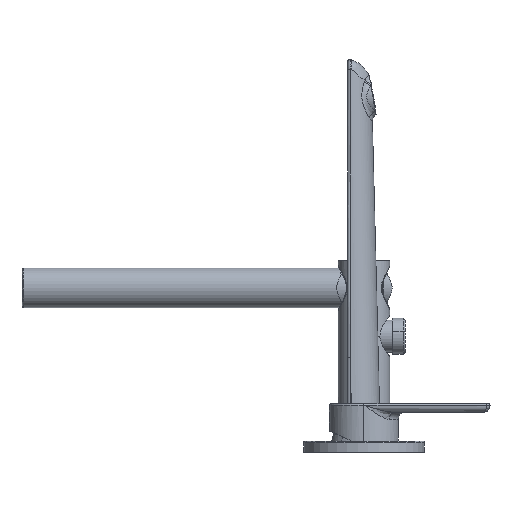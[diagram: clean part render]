
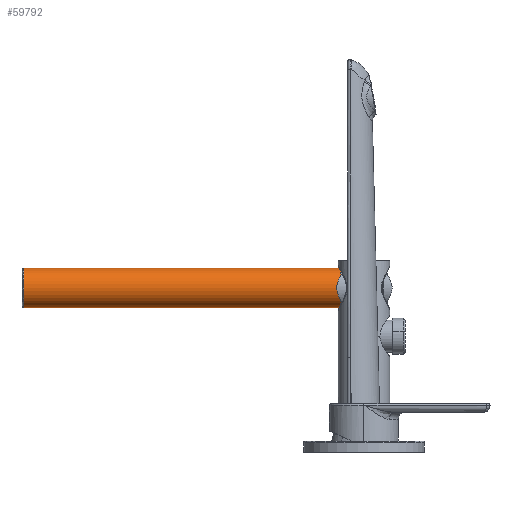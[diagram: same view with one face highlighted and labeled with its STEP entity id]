
A CAD part, left-side view. The second image highlights one B-rep face of the part: STEP entity #59792.
In plain terms, the highlighted cylindrical face has radius 11.5 mm (diameter 23 mm), a partial arc.
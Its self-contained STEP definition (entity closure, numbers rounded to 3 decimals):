
#1991 = DIRECTION ( 'NONE',  ( 0., 1., 0. ) ) ;
#3811 = ORIENTED_EDGE ( 'NONE', *, *, #32945, .T. ) ;
#4683 = VERTEX_POINT ( 'NONE', #47482 ) ;
#5629 = VERTEX_POINT ( 'NONE', #68021 ) ;
#6311 = CIRCLE ( 'NONE', #42476, 11.5 ) ;
#7617 = DIRECTION ( 'NONE',  ( 0., -1., 0. ) ) ;
#9744 = VECTOR ( 'NONE', #31960, 1000. ) ;
#10064 = CARTESIAN_POINT ( 'NONE',  ( 243.069, 13.47, 148.134 ) ) ;
#11183 = ORIENTED_EDGE ( 'NONE', *, *, #27209, .T. ) ;
#11902 = ORIENTED_EDGE ( 'NONE', *, *, #54844, .T. ) ;
#20315 = ORIENTED_EDGE ( 'NONE', *, *, #66944, .F. ) ;
#25271 = CARTESIAN_POINT ( 'NONE',  ( 243.069, 13.47, 159.634 ) ) ;
#25348 = AXIS2_PLACEMENT_3D ( 'NONE', #40190, #7617, #68764 ) ;
#27209 = EDGE_CURVE ( 'NONE', #4683, #54797, #32222, .T. ) ;
#30183 = FACE_OUTER_BOUND ( 'NONE', #53952, .T. ) ;
#31960 = DIRECTION ( 'NONE',  ( 0., 1., 0. ) ) ;
#32222 = LINE ( 'NONE', #65180, #58638 ) ;
#32338 = CIRCLE ( 'NONE', #25348, 11.5 ) ;
#32945 = EDGE_CURVE ( 'NONE', #54797, #5629, #32338, .T. ) ;
#37299 = DIRECTION ( 'NONE',  ( 0., 0., 1. ) ) ;
#40190 = CARTESIAN_POINT ( 'NONE',  ( 243.069, 196.97, 159.634 ) ) ;
#42476 = AXIS2_PLACEMENT_3D ( 'NONE', #25271, #47590, #37299 ) ;
#43654 = CARTESIAN_POINT ( 'NONE',  ( 243.069, 150.97, 148.134 ) ) ;
#43827 = AXIS2_PLACEMENT_3D ( 'NONE', #52163, #1991, #46657 ) ;
#46657 = DIRECTION ( 'NONE',  ( 0., 0., 1. ) ) ;
#47482 = CARTESIAN_POINT ( 'NONE',  ( 243.069, 13.47, 171.134 ) ) ;
#47590 = DIRECTION ( 'NONE',  ( 0., 1., 0. ) ) ;
#49157 = LINE ( 'NONE', #43654, #9744 ) ;
#52163 = CARTESIAN_POINT ( 'NONE',  ( 243.069, 150.97, 159.634 ) ) ;
#53237 = CYLINDRICAL_SURFACE ( 'NONE', #43827, 11.5 ) ;
#53952 = EDGE_LOOP ( 'NONE', ( #20315, #11902, #11183, #3811 ) ) ;
#54797 = VERTEX_POINT ( 'NONE', #63708 ) ;
#54844 = EDGE_CURVE ( 'NONE', #68447, #4683, #6311, .T. ) ;
#58638 = VECTOR ( 'NONE', #60065, 1000. ) ;
#59792 = ADVANCED_FACE ( 'NONE', ( #30183 ), #53237, .T. ) ;
#60065 = DIRECTION ( 'NONE',  ( 0., 1., 0. ) ) ;
#63708 = CARTESIAN_POINT ( 'NONE',  ( 243.069, 196.97, 171.134 ) ) ;
#65180 = CARTESIAN_POINT ( 'NONE',  ( 243.069, 150.97, 171.134 ) ) ;
#66944 = EDGE_CURVE ( 'NONE', #68447, #5629, #49157, .T. ) ;
#68021 = CARTESIAN_POINT ( 'NONE',  ( 243.069, 196.97, 148.134 ) ) ;
#68447 = VERTEX_POINT ( 'NONE', #10064 ) ;
#68764 = DIRECTION ( 'NONE',  ( 0., 0., 1. ) ) ;
